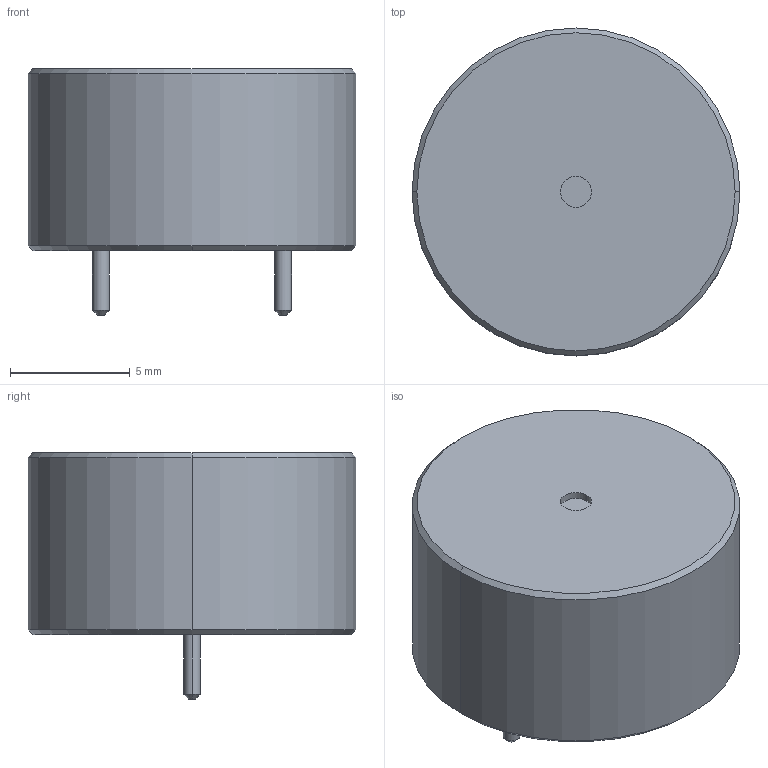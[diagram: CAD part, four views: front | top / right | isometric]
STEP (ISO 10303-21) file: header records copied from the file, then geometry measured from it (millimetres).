
FILE_DESCRIPTION (( 'STEP AP214' ), '1' );
FILE_NAME ('User Library-SPKR_KPEG242.STEP', '2023-08-24T10:38:13', ( '' ), ( '' ), 'SwSTEP 2.0', 'SolidWorks 2022', '' );
FILE_SCHEMA (( 'AUTOMOTIVE_DESIGN' ));
Length unit declared in the file: millimetre
Products named in the file (4): Part_116; Part_94; User Library-SPKR_KPEG242; Part_1332
Assembly tree (3 placements, depth 2):
  User Library-SPKR_KPEG242
    Part_116
    Part_94
    Part_1332
Bounding box: 13.7 x 13.7 x 10.3 mm (x, y, z)
Volume: 1120.8 mm3; surface area: 629.3 mm2
Topology: 3 solids, 3 shells, 23 faces, 42 edges, 26 vertices
Faces by surface type: cylinder 8, cone 8, plane 7
Entity records: 981 total; most frequent: DIRECTION 126, CARTESIAN_POINT 97, ORIENTED_EDGE 84, AXIS2_PLACEMENT_3D 55, EDGE_CURVE 42, UNCERTAINTY_MEASURE_WITH_UNIT 33, FILL_AREA_STYLE 29, MECHANICAL_DESIGN_GEOMETRIC_PRESENTATION_REPRESENTATION 29
